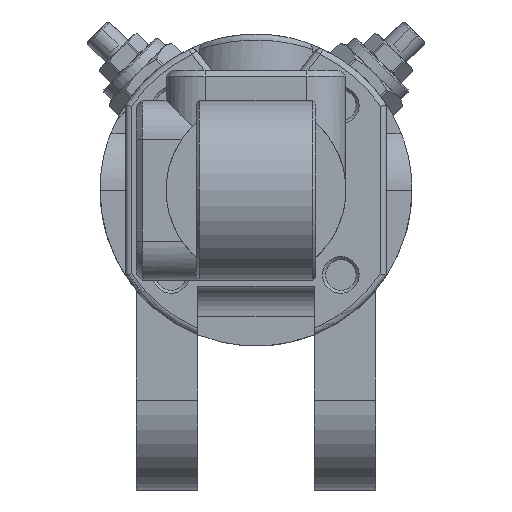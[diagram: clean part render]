
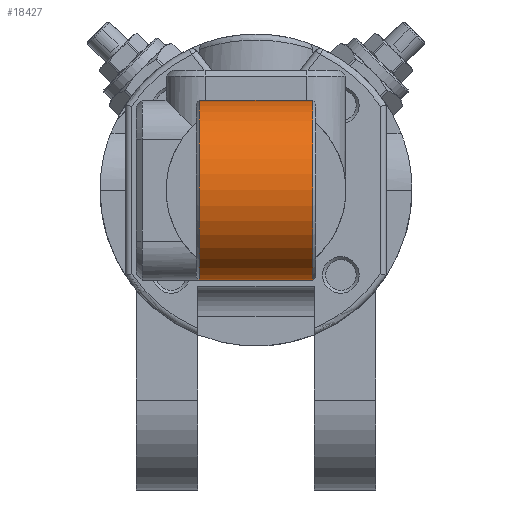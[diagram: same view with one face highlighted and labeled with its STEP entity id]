
A CAD part, front view. The second image highlights one B-rep face of the part: STEP entity #18427.
In plain terms, the highlighted cylindrical face has radius 15 mm (diameter 30 mm), a full revolution.
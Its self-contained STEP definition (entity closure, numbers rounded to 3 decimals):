
#18340=CARTESIAN_POINT('',(9.5,-53.5,0.));
#18341=VERTEX_POINT('',#18340);
#18342=CARTESIAN_POINT('',(9.5,-68.5,0.0));
#18343=DIRECTION('',(1.0,0.0,0.0));
#18344=DIRECTION('',(0.0,-1.0,0.0));
#18345=AXIS2_PLACEMENT_3D('',#18342,#18343,#18344);
#18346=CIRCLE('',#18345,15.0);
#18347=EDGE_CURVE('',#18341,#18341,#18346,.T.);
#18352=CARTESIAN_POINT('',(0.0,-68.5,0.0));
#18353=DIRECTION('',(1.0,0.0,0.0));
#18354=DIRECTION('',(0.0,-1.0,0.0));
#18355=AXIS2_PLACEMENT_3D('',#18352,#18353,#18354);
#18356=CYLINDRICAL_SURFACE('',#18355,15.0);
#18357=CARTESIAN_POINT('',(-9.5,-53.5,0.));
#18358=VERTEX_POINT('',#18357);
#18359=CARTESIAN_POINT('',(-9.5,-68.5,0.0));
#18360=DIRECTION('',(-1.0,0.0,0.0));
#18361=DIRECTION('',(0.0,-1.0,0.0));
#18362=AXIS2_PLACEMENT_3D('',#18359,#18360,#18361);
#18363=CIRCLE('',#18362,15.0);
#18364=EDGE_CURVE('',#18358,#18358,#18363,.T.);
#18365=ORIENTED_EDGE('',*,*,#18364,.F.);
#18366=EDGE_LOOP('',(#18365));
#18367=FACE_OUTER_BOUND('',#18366,.T.);
#18368=CARTESIAN_POINT('',(-9.,-59.5,-12.));
#18369=VERTEX_POINT('',#18368);
#18370=CARTESIAN_POINT('',(-9.0,-59.5,12.));
#18371=VERTEX_POINT('',#18370);
#18372=CARTESIAN_POINT('',(-9.0,-68.5,0.0));
#18373=DIRECTION('',(1.0,0.0,0.0));
#18374=DIRECTION('',(0.0,-1.0,0.0));
#18375=AXIS2_PLACEMENT_3D('',#18372,#18373,#18374);
#18376=CIRCLE('',#18375,15.0);
#18377=EDGE_CURVE('',#18369,#18371,#18376,.T.);
#18378=ORIENTED_EDGE('',*,*,#18377,.F.);
#18379=CARTESIAN_POINT('',(0.0,-68.5,-15.));
#18380=VERTEX_POINT('',#18379);
#18381=CARTESIAN_POINT('',(0.0,-68.5,0.0));
#18382=DIRECTION('',(0.707,0.707,0.0));
#18383=DIRECTION('',(0.707,-0.707,0.0));
#18384=AXIS2_PLACEMENT_3D('',#18381,#18382,#18383);
#18385=ELLIPSE('',#18384,21.213,15.);
#18386=EDGE_CURVE('',#18380,#18369,#18385,.T.);
#18387=ORIENTED_EDGE('',*,*,#18386,.F.);
#18388=CARTESIAN_POINT('',(9.0,-59.5,-12.));
#18389=VERTEX_POINT('',#18388);
#18390=CARTESIAN_POINT('',(0.0,-68.5,0.0));
#18391=DIRECTION('',(-0.707,0.707,0.0));
#18392=DIRECTION('',(-0.707,-0.707,0.0));
#18393=AXIS2_PLACEMENT_3D('',#18390,#18391,#18392);
#18394=ELLIPSE('',#18393,21.213,15.);
#18395=EDGE_CURVE('',#18389,#18380,#18394,.T.);
#18396=ORIENTED_EDGE('',*,*,#18395,.F.);
#18397=CARTESIAN_POINT('',(9.,-59.5,12.));
#18398=VERTEX_POINT('',#18397);
#18399=CARTESIAN_POINT('',(9.,-68.5,0.0));
#18400=DIRECTION('',(-1.0,0.0,0.0));
#18401=DIRECTION('',(0.0,-1.0,0.0));
#18402=AXIS2_PLACEMENT_3D('',#18399,#18400,#18401);
#18403=CIRCLE('',#18402,15.0);
#18404=EDGE_CURVE('',#18398,#18389,#18403,.T.);
#18405=ORIENTED_EDGE('',*,*,#18404,.F.);
#18406=CARTESIAN_POINT('',(0.0,-68.5,15.));
#18407=VERTEX_POINT('',#18406);
#18408=CARTESIAN_POINT('',(0.0,-68.5,0.0));
#18409=DIRECTION('',(-0.707,0.707,0.0));
#18410=DIRECTION('',(-0.707,-0.707,0.0));
#18411=AXIS2_PLACEMENT_3D('',#18408,#18409,#18410);
#18412=ELLIPSE('',#18411,21.213,15.);
#18413=EDGE_CURVE('',#18407,#18398,#18412,.T.);
#18414=ORIENTED_EDGE('',*,*,#18413,.F.);
#18415=CARTESIAN_POINT('',(0.0,-68.5,0.0));
#18416=DIRECTION('',(0.707,0.707,0.0));
#18417=DIRECTION('',(0.707,-0.707,0.0));
#18418=AXIS2_PLACEMENT_3D('',#18415,#18416,#18417);
#18419=ELLIPSE('',#18418,21.213,15.);
#18420=EDGE_CURVE('',#18371,#18407,#18419,.T.);
#18421=ORIENTED_EDGE('',*,*,#18420,.F.);
#18422=EDGE_LOOP('',(#18378,#18387,#18396,#18405,#18414,#18421));
#18423=FACE_BOUND('',#18422,.T.);
#18424=ORIENTED_EDGE('',*,*,#18347,.F.);
#18425=EDGE_LOOP('',(#18424));
#18426=FACE_BOUND('',#18425,.T.);
#18427=ADVANCED_FACE('',(#18367,#18423,#18426),#18356,.T.);
